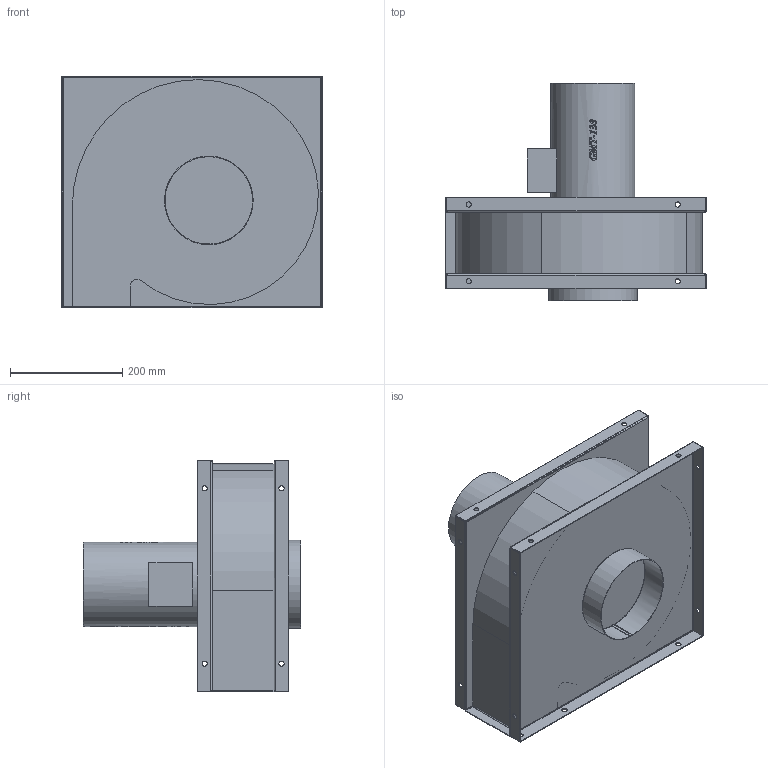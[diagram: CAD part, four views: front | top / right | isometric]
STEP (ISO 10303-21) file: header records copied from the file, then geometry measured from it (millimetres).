
FILE_DESCRIPTION(/* description */ (''),/* implementation_level */ '2;1');
FILE_NAME(/* name */ 'C:\Users\michalstar\Desktop\Piotrek\INVENTOR\GMT\Nowy folder\GMT-130-110.stp',/* time_stamp */ '2015-09-03T09:32:46+02:00',/* author */ ('michalstar'),/* organization */ (''),/* preprocessor_version */ 'ST-DEVELOPER v15.6',/* originating_system */ 'Autodesk Inventor 2015',/* authorisation */ '');
FILE_SCHEMA (('AUTOMOTIVE_DESIGN { 1 0 10303 214 3 1 1 }'));
Length unit declared in the file: centimetre
Products named in the file (1): GMT-130-110
Bounding box: 463 x 387 x 413 mm (x, y, z)
Volume: 21085317.9 mm3; surface area: 984714 mm2
Topology: 1 solids, 1 shells, 770 faces, 2218 edges, 1471 vertices
Faces by surface type: bspline 399, plane 298, cylinder 73
Full cylindrical faces by diameter (mm): 9.2 x18, 150 x1, 370 x1
Entity records: 32286 total; most frequent: CARTESIAN_POINT 14818, ORIENTED_EDGE 4356, DIRECTION 2318, EDGE_CURVE 2170, VERTEX_POINT 1452, LINE 1068, VECTOR 1068, EDGE_LOOP 870
